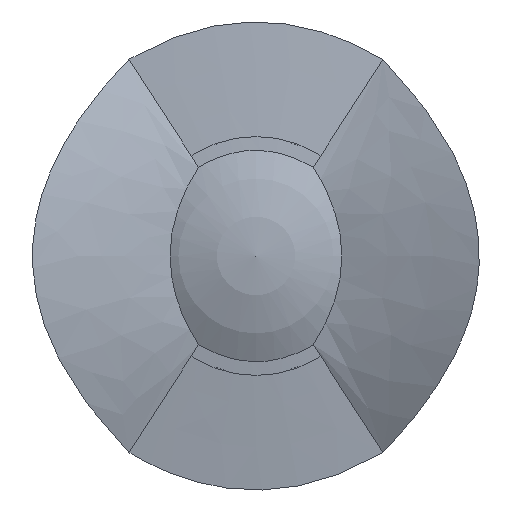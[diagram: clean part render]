
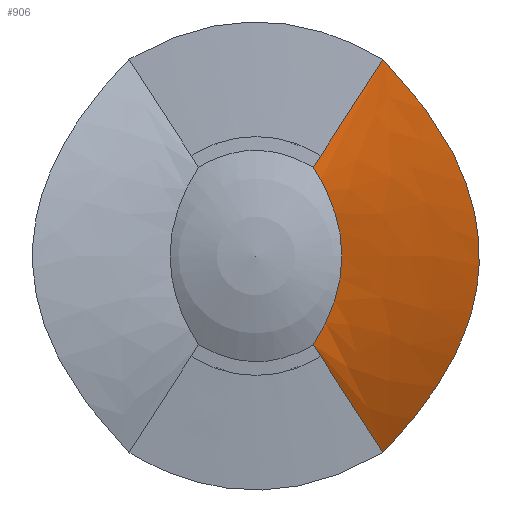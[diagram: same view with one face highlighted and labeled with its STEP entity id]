
A CAD part, left-side view. The second image highlights one B-rep face of the part: STEP entity #906.
In plain terms, the highlighted free-form (B-spline) face has degree [3, 3] with [10, 4] control points.
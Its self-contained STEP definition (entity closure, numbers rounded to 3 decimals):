
#61=B_SPLINE_SURFACE_WITH_KNOTS('',3,3,((#9293,#9294,#9295,#9296),(#9297,
#9298,#9299,#9300),(#9301,#9302,#9303,#9304),(#9305,#9306,#9307,#9308),
(#9309,#9310,#9311,#9312),(#9313,#9314,#9315,#9316),(#9317,#9318,#9319,
#9320),(#9321,#9322,#9323,#9324),(#9325,#9326,#9327,#9328),(#9329,#9330,
#9331,#9332)),.UNSPECIFIED.,.F.,.F.,.F.,(4,1,1,1,1,1,1,4),(4,4),(-0.008,
0.,0.111,0.333,0.667,0.889,1.,1.008),
(-0.02,1.02),.UNSPECIFIED.);
#123=FACE_OUTER_BOUND('',#179,.T.);
#179=EDGE_LOOP('',(#826,#827,#828,#829));
#259=B_SPLINE_CURVE_WITH_KNOTS('',3,(#9337,#9338,#9339,#9340),
 .UNSPECIFIED.,.F.,.F.,(4,4),(0.,1.),.UNSPECIFIED.);
#260=B_SPLINE_CURVE_WITH_KNOTS('',3,(#9343,#9344,#9345,#9346,#9347,#9348,
#9349,#9350),.UNSPECIFIED.,.F.,.F.,(4,1,1,1,1,4),(0.,0.111,0.333,
0.667,0.889,1.),.UNSPECIFIED.);
#309=LINE('',#9335,#359);
#310=LINE('',#9342,#360);
#359=VECTOR('',#1166,5.919);
#360=VECTOR('',#1167,5.919);
#444=VERTEX_POINT('',#9333);
#445=VERTEX_POINT('',#9334);
#446=VERTEX_POINT('',#9336);
#447=VERTEX_POINT('',#9341);
#578=EDGE_CURVE('',#444,#445,#309,.T.);
#579=EDGE_CURVE('',#446,#444,#259,.T.);
#580=EDGE_CURVE('',#447,#446,#310,.T.);
#581=EDGE_CURVE('',#445,#447,#260,.T.);
#826=ORIENTED_EDGE('',*,*,#578,.F.);
#827=ORIENTED_EDGE('',*,*,#579,.F.);
#828=ORIENTED_EDGE('',*,*,#580,.F.);
#829=ORIENTED_EDGE('',*,*,#581,.F.);
#906=ADVANCED_FACE('',(#123),#61,.F.);
#1166=DIRECTION('',(0.113,-0.539,0.835));
#1167=DIRECTION('',(-0.113,0.539,0.835));
#9293=CARTESIAN_POINT('Ctrl Pts',(-9.313,-5.745,9.246));
#9294=CARTESIAN_POINT('Ctrl Pts',(-9.577,-4.672,7.508));
#9295=CARTESIAN_POINT('Ctrl Pts',(-9.841,-3.599,5.769));
#9296=CARTESIAN_POINT('Ctrl Pts',(-10.105,-2.525,4.03));
#9297=CARTESIAN_POINT('Ctrl Pts',(-9.349,-5.791,9.2));
#9298=CARTESIAN_POINT('Ctrl Pts',(-9.602,-4.707,7.47));
#9299=CARTESIAN_POINT('Ctrl Pts',(-9.855,-3.623,5.74));
#9300=CARTESIAN_POINT('Ctrl Pts',(-10.109,-2.538,4.01));
#9301=CARTESIAN_POINT('Ctrl Pts',(-9.9,-6.505,8.479));
#9302=CARTESIAN_POINT('Ctrl Pts',(-9.988,-5.249,6.885));
#9303=CARTESIAN_POINT('Ctrl Pts',(-10.076,-3.993,5.29));
#9304=CARTESIAN_POINT('Ctrl Pts',(-10.164,-2.737,3.696));
#9305=CARTESIAN_POINT('Ctrl Pts',(-11.296,-8.315,6.409));
#9306=CARTESIAN_POINT('Ctrl Pts',(-10.965,-6.623,5.204));
#9307=CARTESIAN_POINT('Ctrl Pts',(-10.635,-4.932,3.999));
#9308=CARTESIAN_POINT('Ctrl Pts',(-10.304,-3.24,2.793));
#9309=CARTESIAN_POINT('Ctrl Pts',(-13.003,-10.526,2.361));
#9310=CARTESIAN_POINT('Ctrl Pts',(-12.16,-8.303,1.917));
#9311=CARTESIAN_POINT('Ctrl Pts',(-11.317,-6.079,1.473));
#9312=CARTESIAN_POINT('Ctrl Pts',(-10.475,-3.855,1.029));
#9313=CARTESIAN_POINT('Ctrl Pts',(-13.003,-10.526,-2.361));
#9314=CARTESIAN_POINT('Ctrl Pts',(-12.16,-8.303,-1.917));
#9315=CARTESIAN_POINT('Ctrl Pts',(-11.317,-6.079,-1.473));
#9316=CARTESIAN_POINT('Ctrl Pts',(-10.475,-3.855,-1.029));
#9317=CARTESIAN_POINT('Ctrl Pts',(-11.296,-8.315,-6.409));
#9318=CARTESIAN_POINT('Ctrl Pts',(-10.965,-6.623,-5.204));
#9319=CARTESIAN_POINT('Ctrl Pts',(-10.635,-4.932,-3.999));
#9320=CARTESIAN_POINT('Ctrl Pts',(-10.304,-3.24,-2.793));
#9321=CARTESIAN_POINT('Ctrl Pts',(-9.899,-6.505,-8.48));
#9322=CARTESIAN_POINT('Ctrl Pts',(-9.988,-5.249,-6.885));
#9323=CARTESIAN_POINT('Ctrl Pts',(-10.076,-3.993,-5.29));
#9324=CARTESIAN_POINT('Ctrl Pts',(-10.164,-2.737,-3.696));
#9325=CARTESIAN_POINT('Ctrl Pts',(-9.348,-5.79,-9.201));
#9326=CARTESIAN_POINT('Ctrl Pts',(-9.602,-4.706,-7.471));
#9327=CARTESIAN_POINT('Ctrl Pts',(-9.855,-3.622,-5.74));
#9328=CARTESIAN_POINT('Ctrl Pts',(-10.109,-2.538,-4.01));
#9329=CARTESIAN_POINT('Ctrl Pts',(-9.312,-5.744,-9.248));
#9330=CARTESIAN_POINT('Ctrl Pts',(-9.576,-4.671,-7.509));
#9331=CARTESIAN_POINT('Ctrl Pts',(-9.841,-3.598,-5.77));
#9332=CARTESIAN_POINT('Ctrl Pts',(-10.105,-2.525,-4.03));
#9333=CARTESIAN_POINT('',(-10.102,-2.627,4.068));
#9334=CARTESIAN_POINT('',(-9.432,-5.818,9.009));
#9335=CARTESIAN_POINT('',(-10.102,-2.627,4.068));
#9336=CARTESIAN_POINT('',(-10.102,-2.627,-4.068));
#9337=CARTESIAN_POINT('Ctrl Pts',(-10.102,-2.627,-4.068));
#9338=CARTESIAN_POINT('Ctrl Pts',(-10.644,-4.371,-1.356));
#9339=CARTESIAN_POINT('Ctrl Pts',(-10.644,-4.371,1.356));
#9340=CARTESIAN_POINT('Ctrl Pts',(-10.102,-2.627,4.068));
#9341=CARTESIAN_POINT('',(-9.432,-5.818,-9.009));
#9342=CARTESIAN_POINT('',(-9.432,-5.818,-9.009));
#9343=CARTESIAN_POINT('Ctrl Pts',(-9.432,-5.818,9.009));
#9344=CARTESIAN_POINT('Ctrl Pts',(-9.935,-6.473,8.342));
#9345=CARTESIAN_POINT('Ctrl Pts',(-11.277,-8.217,6.34));
#9346=CARTESIAN_POINT('Ctrl Pts',(-12.954,-10.398,2.336));
#9347=CARTESIAN_POINT('Ctrl Pts',(-12.954,-10.398,-2.336));
#9348=CARTESIAN_POINT('Ctrl Pts',(-11.277,-8.217,-6.34));
#9349=CARTESIAN_POINT('Ctrl Pts',(-9.935,-6.473,-8.342));
#9350=CARTESIAN_POINT('Ctrl Pts',(-9.432,-5.818,-9.009));
